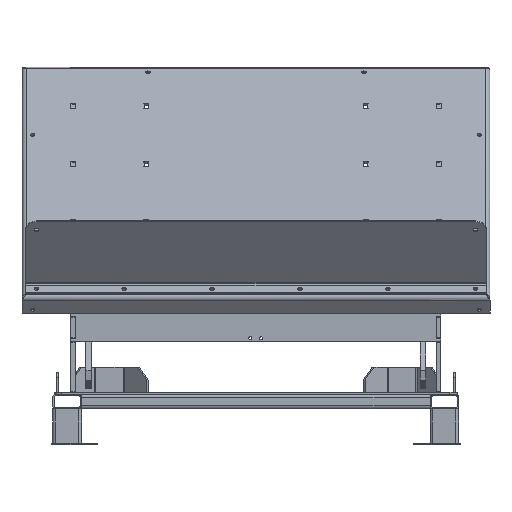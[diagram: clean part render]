
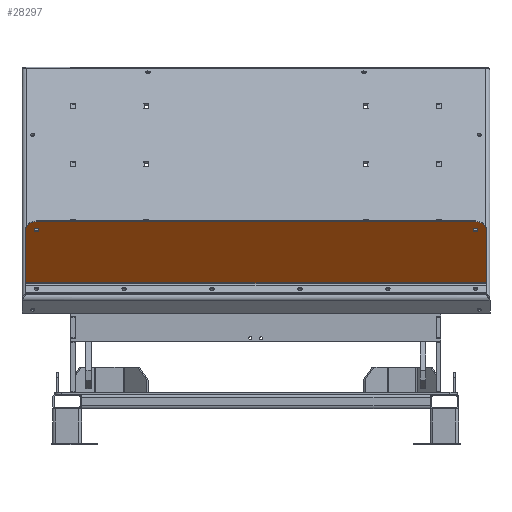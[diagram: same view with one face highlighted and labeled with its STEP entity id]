
A CAD part, left-side view. The second image highlights one B-rep face of the part: STEP entity #28297.
In plain terms, the highlighted planar face has unit normal (-0.766, 0, -0.643).
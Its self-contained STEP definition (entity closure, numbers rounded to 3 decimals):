
#417=FACE_BOUND('',#4135,.T.);
#418=FACE_BOUND('',#4136,.T.);
#947=PLANE('',#31582);
#2373=FACE_OUTER_BOUND('',#4134,.T.);
#4134=EDGE_LOOP('',(#25425,#25426,#25427,#25428,#25429,#25430));
#4135=EDGE_LOOP('',(#25431));
#4136=EDGE_LOOP('',(#25432));
#6398=LINE('',#48934,#8702);
#6404=LINE('',#48950,#8708);
#6409=LINE('',#48967,#8713);
#6410=LINE('',#48969,#8714);
#8702=VECTOR('',#40096,10.);
#8708=VECTOR('',#40112,10.);
#8713=VECTOR('',#40137,10.);
#8714=VECTOR('',#40140,10.);
#10587=CIRCLE('',#31530,6.);
#10589=CIRCLE('',#31533,6.);
#10607=CIRCLE('',#31563,30.);
#10610=CIRCLE('',#31569,30.);
#13289=VERTEX_POINT('',#48850);
#13291=VERTEX_POINT('',#48855);
#13316=VERTEX_POINT('',#48921);
#13317=VERTEX_POINT('',#48922);
#13321=VERTEX_POINT('',#48932);
#13325=VERTEX_POINT('',#48944);
#13326=VERTEX_POINT('',#48948);
#13328=VERTEX_POINT('',#48962);
#17343=EDGE_CURVE('',#13289,#13289,#10587,.T.);
#17345=EDGE_CURVE('',#13291,#13291,#10589,.T.);
#17374=EDGE_CURVE('',#13316,#13317,#10607,.T.);
#17380=EDGE_CURVE('',#13321,#13316,#6398,.T.);
#17385=EDGE_CURVE('',#13325,#13321,#10610,.T.);
#17388=EDGE_CURVE('',#13326,#13325,#6404,.T.);
#17397=EDGE_CURVE('',#13326,#13328,#6409,.T.);
#17398=EDGE_CURVE('',#13317,#13328,#6410,.T.);
#25425=ORIENTED_EDGE('',*,*,#17374,.F.);
#25426=ORIENTED_EDGE('',*,*,#17380,.F.);
#25427=ORIENTED_EDGE('',*,*,#17385,.F.);
#25428=ORIENTED_EDGE('',*,*,#17388,.F.);
#25429=ORIENTED_EDGE('',*,*,#17397,.T.);
#25430=ORIENTED_EDGE('',*,*,#17398,.F.);
#25431=ORIENTED_EDGE('',*,*,#17343,.T.);
#25432=ORIENTED_EDGE('',*,*,#17345,.T.);
#28297=ADVANCED_FACE('',(#2373,#417,#418),#947,.T.);
#31530=AXIS2_PLACEMENT_3D('',#48851,#40009,#40010);
#31533=AXIS2_PLACEMENT_3D('',#48856,#40015,#40016);
#31563=AXIS2_PLACEMENT_3D('',#48923,#40086,#40087);
#31569=AXIS2_PLACEMENT_3D('',#48945,#40106,#40107);
#31582=AXIS2_PLACEMENT_3D('',#48970,#40141,#40142);
#40009=DIRECTION('center_axis',(0.766,0.,
0.643));
#40010=DIRECTION('ref_axis',(0.,-1.,0.));
#40015=DIRECTION('center_axis',(0.766,0.,
0.643));
#40016=DIRECTION('ref_axis',(0.,-1.,0.));
#40086=DIRECTION('center_axis',(0.766,0.,
0.643));
#40087=DIRECTION('ref_axis',(-0.455,-0.707,0.542));
#40096=DIRECTION('',(0.,-1.,0.));
#40106=DIRECTION('center_axis',(0.766,0.,
0.643));
#40107=DIRECTION('ref_axis',(-0.455,0.707,0.542));
#40112=DIRECTION('',(-0.643,0.,0.766));
#40137=DIRECTION('',(0.,-1.,0.));
#40140=DIRECTION('',(0.643,0.,-0.766));
#40141=DIRECTION('center_axis',(-0.766,0.,
-0.643));
#40142=DIRECTION('ref_axis',(0.,-1.,0.));
#48850=CARTESIAN_POINT('',(-695.359,-616.45,456.335));
#48851=CARTESIAN_POINT('Origin',(-695.359,-610.45,456.335));
#48855=CARTESIAN_POINT('',(-695.359,603.55,456.335));
#48856=CARTESIAN_POINT('Origin',(-695.359,609.55,456.335));
#48921=CARTESIAN_POINT('',(-714.643,-610.45,479.316));
#48922=CARTESIAN_POINT('',(-695.359,-640.45,456.335));
#48923=CARTESIAN_POINT('Origin',(-695.359,-610.45,456.335));
#48932=CARTESIAN_POINT('',(-714.643,609.55,479.316));
#48934=CARTESIAN_POINT('',(-714.643,-640.45,479.316));
#48944=CARTESIAN_POINT('',(-695.359,639.55,456.335));
#48945=CARTESIAN_POINT('Origin',(-695.359,609.55,456.335));
#48948=CARTESIAN_POINT('',(-571.944,639.55,309.255));
#48950=CARTESIAN_POINT('',(-714.643,639.55,479.316));
#48962=CARTESIAN_POINT('',(-571.944,-640.45,309.255));
#48967=CARTESIAN_POINT('',(-571.944,-320.45,309.255));
#48969=CARTESIAN_POINT('',(-566.802,-640.45,303.126));
#48970=CARTESIAN_POINT('Origin',(-640.722,-0.45,391.221));
